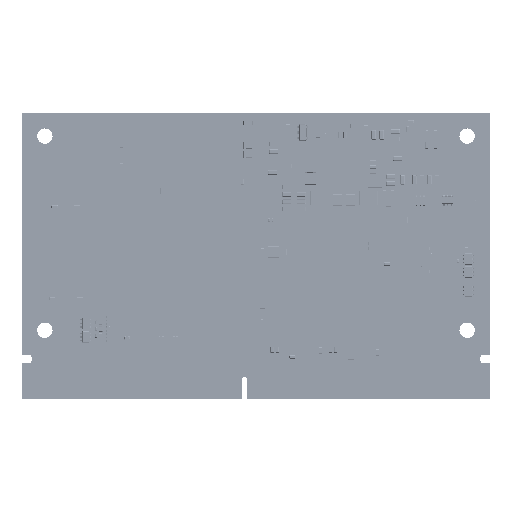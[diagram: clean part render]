
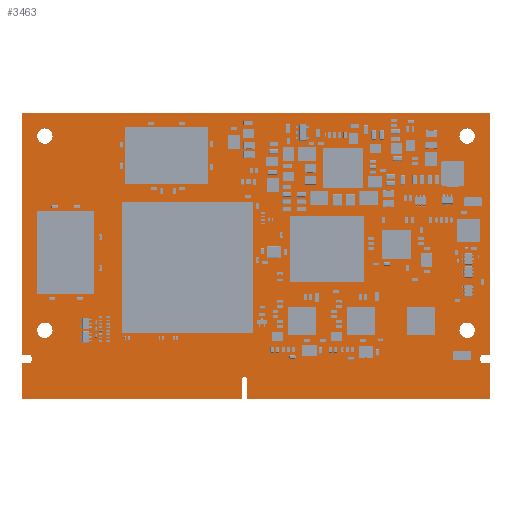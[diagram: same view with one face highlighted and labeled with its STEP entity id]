
A CAD part, top view. The second image highlights one B-rep face of the part: STEP entity #3463.
In plain terms, the highlighted planar face has unit normal (0, 0, 1).
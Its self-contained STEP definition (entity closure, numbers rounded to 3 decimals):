
#2668 = VERTEX_POINT('',#2669);
#2669 = CARTESIAN_POINT('',(0.,0.,1.207));
#2675 = EDGE_CURVE('',#2668,#2676,#2678,.T.);
#2676 = VERTEX_POINT('',#2677);
#2677 = CARTESIAN_POINT('',(0.,6.2,1.207));
#2678 = LINE('',#2679,#2680);
#2679 = CARTESIAN_POINT('',(0.,0.,1.207));
#2680 = VECTOR('',#2681,1.);
#2681 = DIRECTION('',(0.,1.,0.));
#2706 = EDGE_CURVE('',#2676,#2707,#2709,.T.);
#2707 = VERTEX_POINT('',#2708);
#2708 = CARTESIAN_POINT('',(1.2,6.2,1.207));
#2709 = LINE('',#2710,#2711);
#2710 = CARTESIAN_POINT('',(0.,6.2,1.207));
#2711 = VECTOR('',#2712,1.);
#2712 = DIRECTION('',(1.,0.,0.));
#2737 = EDGE_CURVE('',#2707,#2738,#2740,.T.);
#2738 = VERTEX_POINT('',#2739);
#2739 = CARTESIAN_POINT('',(1.7,6.7,1.207));
#2740 = CIRCLE('',#2741,0.498);
#2741 = AXIS2_PLACEMENT_3D('',#2742,#2743,#2744);
#2742 = CARTESIAN_POINT('',(1.202,6.698,1.207));
#2743 = DIRECTION('',(0.,0.,1.));
#2744 = DIRECTION('',(-0.003,-1.,0.));
#2770 = EDGE_CURVE('',#2738,#2771,#2773,.T.);
#2771 = VERTEX_POINT('',#2772);
#2772 = CARTESIAN_POINT('',(1.7,7.2,1.207));
#2773 = LINE('',#2774,#2775);
#2774 = CARTESIAN_POINT('',(1.7,6.7,1.207));
#2775 = VECTOR('',#2776,1.);
#2776 = DIRECTION('',(0.,1.,0.));
#2801 = EDGE_CURVE('',#2771,#2802,#2804,.T.);
#2802 = VERTEX_POINT('',#2803);
#2803 = CARTESIAN_POINT('',(1.2,7.7,1.207));
#2804 = CIRCLE('',#2805,0.498);
#2805 = AXIS2_PLACEMENT_3D('',#2806,#2807,#2808);
#2806 = CARTESIAN_POINT('',(1.202,7.202,1.207));
#2807 = DIRECTION('',(0.,0.,1.));
#2808 = DIRECTION('',(1.,-0.003,0.));
#2834 = EDGE_CURVE('',#2802,#2835,#2837,.T.);
#2835 = VERTEX_POINT('',#2836);
#2836 = CARTESIAN_POINT('',(0.,7.7,1.207));
#2837 = LINE('',#2838,#2839);
#2838 = CARTESIAN_POINT('',(1.2,7.7,1.207));
#2839 = VECTOR('',#2840,1.);
#2840 = DIRECTION('',(-1.,0.,0.));
#2865 = EDGE_CURVE('',#2835,#2866,#2868,.T.);
#2866 = VERTEX_POINT('',#2867);
#2867 = CARTESIAN_POINT('',(0.,50.,1.207));
#2868 = LINE('',#2869,#2870);
#2869 = CARTESIAN_POINT('',(0.,7.7,1.207));
#2870 = VECTOR('',#2871,1.);
#2871 = DIRECTION('',(0.,1.,0.));
#2896 = EDGE_CURVE('',#2866,#2897,#2899,.T.);
#2897 = VERTEX_POINT('',#2898);
#2898 = CARTESIAN_POINT('',(82.,50.,1.207));
#2899 = LINE('',#2900,#2901);
#2900 = CARTESIAN_POINT('',(0.,50.,1.207));
#2901 = VECTOR('',#2902,1.);
#2902 = DIRECTION('',(1.,0.,0.));
#2927 = EDGE_CURVE('',#2897,#2928,#2930,.T.);
#2928 = VERTEX_POINT('',#2929);
#2929 = CARTESIAN_POINT('',(82.,7.7,1.207));
#2930 = LINE('',#2931,#2932);
#2931 = CARTESIAN_POINT('',(82.,50.,1.207));
#2932 = VECTOR('',#2933,1.);
#2933 = DIRECTION('',(0.,-1.,0.));
#2958 = EDGE_CURVE('',#2928,#2959,#2961,.T.);
#2959 = VERTEX_POINT('',#2960);
#2960 = CARTESIAN_POINT('',(80.8,7.7,1.207));
#2961 = LINE('',#2962,#2963);
#2962 = CARTESIAN_POINT('',(82.,7.7,1.207));
#2963 = VECTOR('',#2964,1.);
#2964 = DIRECTION('',(-1.,0.,0.));
#2989 = EDGE_CURVE('',#2959,#2990,#2992,.T.);
#2990 = VERTEX_POINT('',#2991);
#2991 = CARTESIAN_POINT('',(80.3,7.2,1.207));
#2992 = CIRCLE('',#2993,0.498);
#2993 = AXIS2_PLACEMENT_3D('',#2994,#2995,#2996);
#2994 = CARTESIAN_POINT('',(80.798,7.202,1.207));
#2995 = DIRECTION('',(0.,0.,1.));
#2996 = DIRECTION('',(0.003,1.,-0.));
#3022 = EDGE_CURVE('',#2990,#3023,#3025,.T.);
#3023 = VERTEX_POINT('',#3024);
#3024 = CARTESIAN_POINT('',(80.3,6.7,1.207));
#3025 = LINE('',#3026,#3027);
#3026 = CARTESIAN_POINT('',(80.3,7.2,1.207));
#3027 = VECTOR('',#3028,1.);
#3028 = DIRECTION('',(0.,-1.,0.));
#3053 = EDGE_CURVE('',#3023,#3054,#3056,.T.);
#3054 = VERTEX_POINT('',#3055);
#3055 = CARTESIAN_POINT('',(80.8,6.2,1.207));
#3056 = CIRCLE('',#3057,0.498);
#3057 = AXIS2_PLACEMENT_3D('',#3058,#3059,#3060);
#3058 = CARTESIAN_POINT('',(80.798,6.698,1.207));
#3059 = DIRECTION('',(0.,0.,1.));
#3060 = DIRECTION('',(-1.,0.003,0.));
#3086 = EDGE_CURVE('',#3054,#3087,#3089,.T.);
#3087 = VERTEX_POINT('',#3088);
#3088 = CARTESIAN_POINT('',(82.,6.2,1.207));
#3089 = LINE('',#3090,#3091);
#3090 = CARTESIAN_POINT('',(80.8,6.2,1.207));
#3091 = VECTOR('',#3092,1.);
#3092 = DIRECTION('',(1.,0.,0.));
#3117 = EDGE_CURVE('',#3087,#3118,#3120,.T.);
#3118 = VERTEX_POINT('',#3119);
#3119 = CARTESIAN_POINT('',(82.,0.,1.207));
#3120 = LINE('',#3121,#3122);
#3121 = CARTESIAN_POINT('',(82.,6.2,1.207));
#3122 = VECTOR('',#3123,1.);
#3123 = DIRECTION('',(0.,-1.,0.));
#3148 = EDGE_CURVE('',#3118,#3149,#3151,.T.);
#3149 = VERTEX_POINT('',#3150);
#3150 = CARTESIAN_POINT('',(39.5,0.,1.207));
#3151 = LINE('',#3152,#3153);
#3152 = CARTESIAN_POINT('',(82.,0.,1.207));
#3153 = VECTOR('',#3154,1.);
#3154 = DIRECTION('',(-1.,0.,0.));
#3179 = EDGE_CURVE('',#3149,#3180,#3182,.T.);
#3180 = VERTEX_POINT('',#3181);
#3181 = CARTESIAN_POINT('',(39.5,3.3,1.207));
#3182 = LINE('',#3183,#3184);
#3183 = CARTESIAN_POINT('',(39.5,0.,1.207));
#3184 = VECTOR('',#3185,1.);
#3185 = DIRECTION('',(0.,1.,0.));
#3210 = EDGE_CURVE('',#3180,#3211,#3213,.T.);
#3211 = VERTEX_POINT('',#3212);
#3212 = CARTESIAN_POINT('',(38.5,3.3,1.207));
#3213 = CIRCLE('',#3214,0.5);
#3214 = AXIS2_PLACEMENT_3D('',#3215,#3216,#3217);
#3215 = CARTESIAN_POINT('',(39.,3.3,1.207));
#3216 = DIRECTION('',(0.,0.,1.));
#3217 = DIRECTION('',(1.,0.,-0.));
#3243 = EDGE_CURVE('',#3211,#3244,#3246,.T.);
#3244 = VERTEX_POINT('',#3245);
#3245 = CARTESIAN_POINT('',(38.5,0.,1.207));
#3246 = LINE('',#3247,#3248);
#3247 = CARTESIAN_POINT('',(38.5,3.3,1.207));
#3248 = VECTOR('',#3249,1.);
#3249 = DIRECTION('',(0.,-1.,0.));
#3274 = EDGE_CURVE('',#3244,#2668,#3275,.T.);
#3275 = LINE('',#3276,#3277);
#3276 = CARTESIAN_POINT('',(38.5,0.,1.207));
#3277 = VECTOR('',#3278,1.);
#3278 = DIRECTION('',(-1.,0.,0.));
#3298 = VERTEX_POINT('',#3299);
#3299 = CARTESIAN_POINT('',(5.35,12.,1.207));
#3305 = EDGE_CURVE('',#3298,#3298,#3306,.T.);
#3306 = CIRCLE('',#3307,1.35);
#3307 = AXIS2_PLACEMENT_3D('',#3308,#3309,#3310);
#3308 = CARTESIAN_POINT('',(4.,12.,1.207));
#3309 = DIRECTION('',(0.,0.,1.));
#3310 = DIRECTION('',(1.,0.,-0.));
#3331 = VERTEX_POINT('',#3332);
#3332 = CARTESIAN_POINT('',(5.35,46.,1.207));
#3338 = EDGE_CURVE('',#3331,#3331,#3339,.T.);
#3339 = CIRCLE('',#3340,1.35);
#3340 = AXIS2_PLACEMENT_3D('',#3341,#3342,#3343);
#3341 = CARTESIAN_POINT('',(4.,46.,1.207));
#3342 = DIRECTION('',(0.,0.,1.));
#3343 = DIRECTION('',(1.,0.,-0.));
#3364 = VERTEX_POINT('',#3365);
#3365 = CARTESIAN_POINT('',(79.35,12.,1.207));
#3371 = EDGE_CURVE('',#3364,#3364,#3372,.T.);
#3372 = CIRCLE('',#3373,1.35);
#3373 = AXIS2_PLACEMENT_3D('',#3374,#3375,#3376);
#3374 = CARTESIAN_POINT('',(78.,12.,1.207));
#3375 = DIRECTION('',(0.,0.,1.));
#3376 = DIRECTION('',(1.,0.,-0.));
#3397 = VERTEX_POINT('',#3398);
#3398 = CARTESIAN_POINT('',(79.35,46.,1.207));
#3404 = EDGE_CURVE('',#3397,#3397,#3405,.T.);
#3405 = CIRCLE('',#3406,1.35);
#3406 = AXIS2_PLACEMENT_3D('',#3407,#3408,#3409);
#3407 = CARTESIAN_POINT('',(78.,46.,1.207));
#3408 = DIRECTION('',(0.,0.,1.));
#3409 = DIRECTION('',(1.,0.,-0.));
#3463 = ADVANCED_FACE('',(#3464,#3486,#3489,#3492,#3495),#3498,.F.);
#3464 = FACE_BOUND('',#3465,.F.);
#3465 = EDGE_LOOP('',(#3466,#3467,#3468,#3469,#3470,#3471,#3472,#3473,
    #3474,#3475,#3476,#3477,#3478,#3479,#3480,#3481,#3482,#3483,#3484,
    #3485));
#3466 = ORIENTED_EDGE('',*,*,#2675,.T.);
#3467 = ORIENTED_EDGE('',*,*,#2706,.T.);
#3468 = ORIENTED_EDGE('',*,*,#2737,.T.);
#3469 = ORIENTED_EDGE('',*,*,#2770,.T.);
#3470 = ORIENTED_EDGE('',*,*,#2801,.T.);
#3471 = ORIENTED_EDGE('',*,*,#2834,.T.);
#3472 = ORIENTED_EDGE('',*,*,#2865,.T.);
#3473 = ORIENTED_EDGE('',*,*,#2896,.T.);
#3474 = ORIENTED_EDGE('',*,*,#2927,.T.);
#3475 = ORIENTED_EDGE('',*,*,#2958,.T.);
#3476 = ORIENTED_EDGE('',*,*,#2989,.T.);
#3477 = ORIENTED_EDGE('',*,*,#3022,.T.);
#3478 = ORIENTED_EDGE('',*,*,#3053,.T.);
#3479 = ORIENTED_EDGE('',*,*,#3086,.T.);
#3480 = ORIENTED_EDGE('',*,*,#3117,.T.);
#3481 = ORIENTED_EDGE('',*,*,#3148,.T.);
#3482 = ORIENTED_EDGE('',*,*,#3179,.T.);
#3483 = ORIENTED_EDGE('',*,*,#3210,.T.);
#3484 = ORIENTED_EDGE('',*,*,#3243,.T.);
#3485 = ORIENTED_EDGE('',*,*,#3274,.T.);
#3486 = FACE_BOUND('',#3487,.F.);
#3487 = EDGE_LOOP('',(#3488));
#3488 = ORIENTED_EDGE('',*,*,#3305,.T.);
#3489 = FACE_BOUND('',#3490,.F.);
#3490 = EDGE_LOOP('',(#3491));
#3491 = ORIENTED_EDGE('',*,*,#3338,.T.);
#3492 = FACE_BOUND('',#3493,.F.);
#3493 = EDGE_LOOP('',(#3494));
#3494 = ORIENTED_EDGE('',*,*,#3371,.T.);
#3495 = FACE_BOUND('',#3496,.F.);
#3496 = EDGE_LOOP('',(#3497));
#3497 = ORIENTED_EDGE('',*,*,#3404,.T.);
#3498 = PLANE('',#3499);
#3499 = AXIS2_PLACEMENT_3D('',#3500,#3501,#3502);
#3500 = CARTESIAN_POINT('',(40.949,24.033,1.207)
  );
#3501 = DIRECTION('',(-0.,-0.,-1.));
#3502 = DIRECTION('',(-1.,0.,0.));
